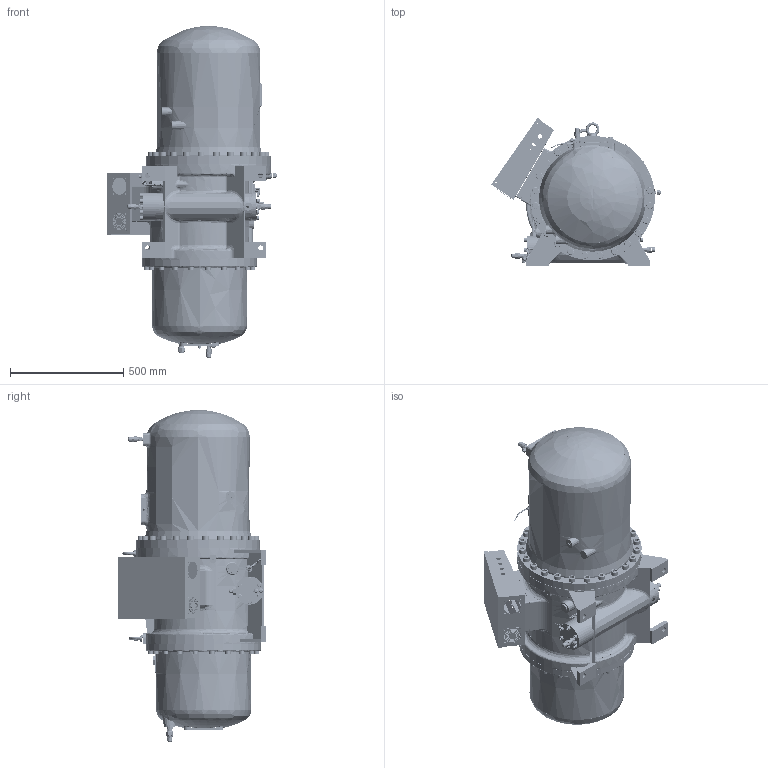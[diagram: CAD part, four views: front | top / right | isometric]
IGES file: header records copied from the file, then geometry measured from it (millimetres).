
Start section: SolidWorks IGES file using analytic representation for surfaces
Global section: file name: \\Datacenterrd1\@研發部\設計一課(冷媒)\(1)-文管中心\(2)-3D文管\(8)-Compressor 3Doutline(Surface)\RC2\RC2-A\IGS\RC2-470A outline.IGS; native system: SolidWorks 2013; preprocessor: SolidWorks 2013; author: hedylu; date: 141225.141445; units: centimetre
Bounding box: 749.47 x 655.17 x 1468 mm (x, y, z)
Surface area: 4813762.1 mm2 (no closed solid volume)
Topology: 0 solids, 0 shells, 2328 faces, 47069 edges, 47040 vertices
Faces by surface type: bspline 1557, revolution 771
